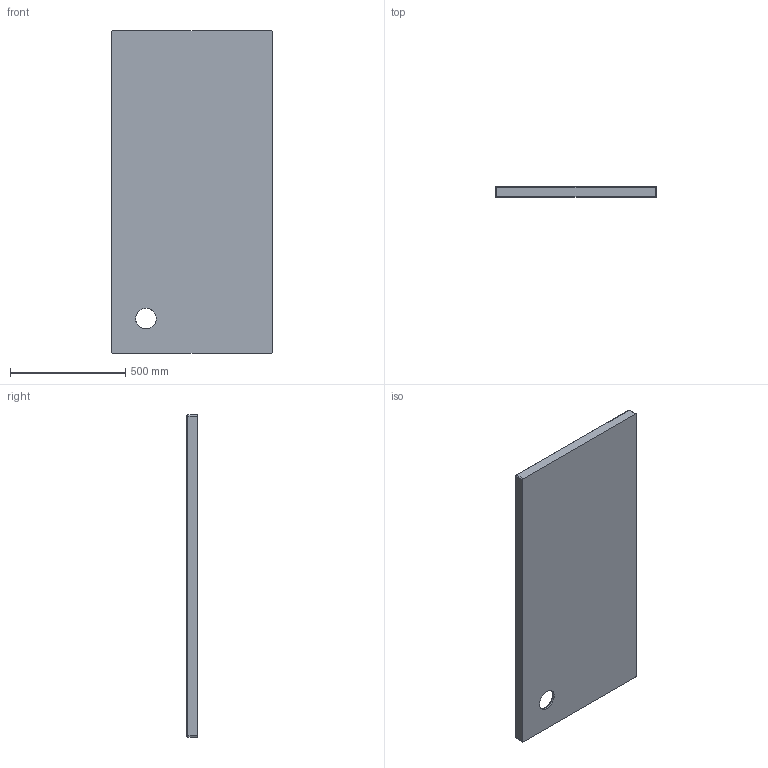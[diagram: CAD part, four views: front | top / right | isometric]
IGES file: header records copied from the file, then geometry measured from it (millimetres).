
Global section: file name: f5e4ce52-47f8-471d-a1b2-ee6f0f5f5350; native system: unknown; preprocessor: unknown; author: unknown; organization: unknown; date: 20200103.082837; units: millimetre
Bounding box: 700 x 45 x 1400 mm (x, y, z)
Volume: 27804825.4 mm3; surface area: 2192815 mm2
Topology: 1 solids, 1 shells, 47 faces, 98 edges, 54 vertices
Faces by surface type: bspline 47
